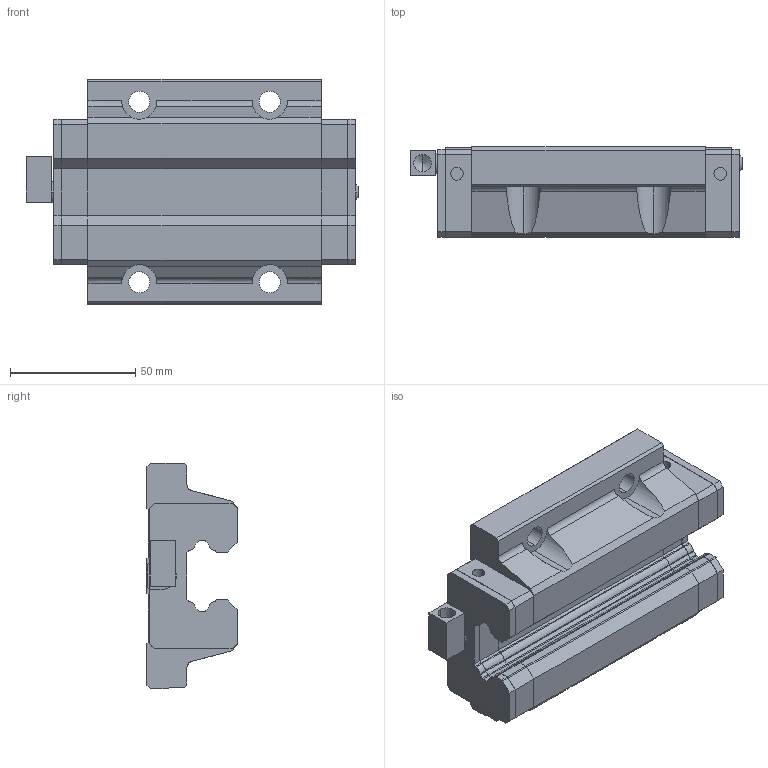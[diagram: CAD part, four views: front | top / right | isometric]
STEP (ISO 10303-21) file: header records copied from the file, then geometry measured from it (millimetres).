
FILE_DESCRIPTION (( 'STEP AP203' ), '1' );
FILE_NAME ('SGW30HA.STEP', '2025-06-27T06:09:38', ( 'Owner' ), ( 'Organization' ), 'SwSTEP 2.0', 'SolidWorks 2020', '' );
FILE_SCHEMA (( 'CONFIG_CONTROL_DESIGN' ));
Length unit declared in the file: millimetre
Products named in the file (1): SGW30HA
Bounding box: 132.4 x 36 x 90 mm (x, y, z)
Volume: 246235.8 mm3; surface area: 53325.7 mm2
Topology: 7 solids, 7 shells, 453 faces, 1226 edges, 796 vertices
Faces by surface type: plane 251, cylinder 158, cone 42, torus 2
Entity records: 14366 total; most frequent: CARTESIAN_POINT 2716, ORIENTED_EDGE 2448, DIRECTION 2421, EDGE_CURVE 1224, LINE 811, VECTOR 811, AXIS2_PLACEMENT_3D 805, VERTEX_POINT 796
